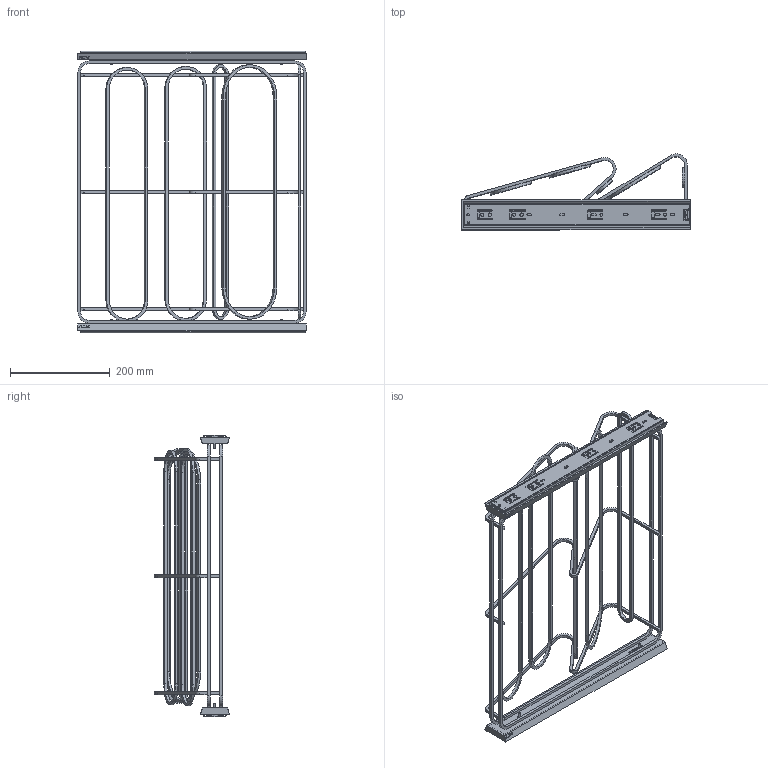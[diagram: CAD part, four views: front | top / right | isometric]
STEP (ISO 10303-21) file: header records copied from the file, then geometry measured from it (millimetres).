
FILE_DESCRIPTION(/* description */ (''),/* implementation_level */ '2;1');
FILE_NAME(/* name */ 'D:\$Workingspace\Designs\Meblowka\uproszczenia\garderoba smart\W-WOBU…-GX.stp',/* time_stamp */ '2019-01-02T08:46:39+01:00',/* author */ ('tomaszw'),/* organization */ (''),/* preprocessor_version */ 'ST-DEVELOPER v17',/* originating_system */ 'Autodesk Inventor 2019',/* authorisation */ '');
FILE_SCHEMA (('AUTOMOTIVE_DESIGN { 1 0 10303 214 3 1 1 }'));
Length unit declared in the file: millimetre
Products named in the file (14): złożenie z koszem 11_2017; GTV_D_02_01; drut nośny buciarki; wzmocnienie buciarki duze; drut dół; wzmocnienie buciarki duze_1; wzmocnienie buciarki duze_2; PPD_2; SM 4x16; PK-0H45-450-GX; Blokada_5; PK-0H45_1-450-GX; PK-0H45_2-450-GX; PK-0H45_3-450-GX
Assembly tree (26 placements, depth 3):
  złożenie z koszem 11_2017
    PPD_2  x2
    GTV_D_02_01
      drut nośny buciarki  x3
      wzmocnienie buciarki duze_2  x2
      wzmocnienie buciarki duze
      wzmocnienie buciarki duze_1  x2
      drut dół  x2
    SM 4x16  x4
    PK-0H45-450-GX
      Blokada_5  x2
      PK-0H45_1-450-GX  x2
      PK-0H45_2-450-GX  x2
      PK-0H45_3-450-GX  x2
Bounding box: 458.03 x 151.77 x 564 mm (x, y, z)
Volume: 667038 mm3; surface area: 718357.7 mm2
Topology: 24 solids, 24 shells, 940 faces, 2632 edges, 1760 vertices
Faces by surface type: plane 540, cylinder 336, cone 40, bspline 24
Full cylindrical faces by diameter (mm): 4 x4, 4.3 x2, 4.5 x4, 5 x2, 5.1 x2, 6 x8, 7 x4, 8 x4, 8.3 x2
Entity records: 15290 total; most frequent: CARTESIAN_POINT 2857, ORIENTED_EDGE 2484, DIRECTION 2469, EDGE_CURVE 1242, LINE 849, VECTOR 849, VERTEX_POINT 826, AXIS2_PLACEMENT_3D 810
